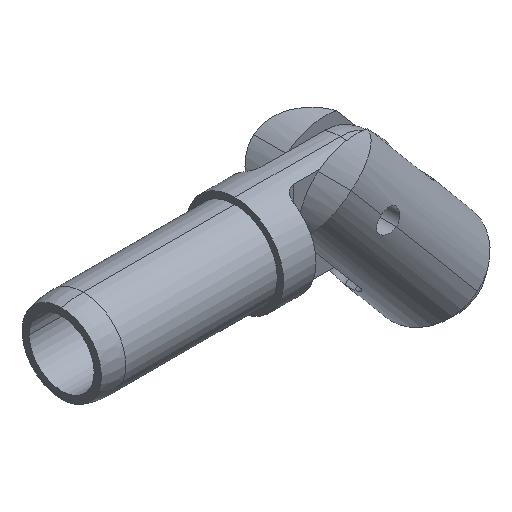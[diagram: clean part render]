
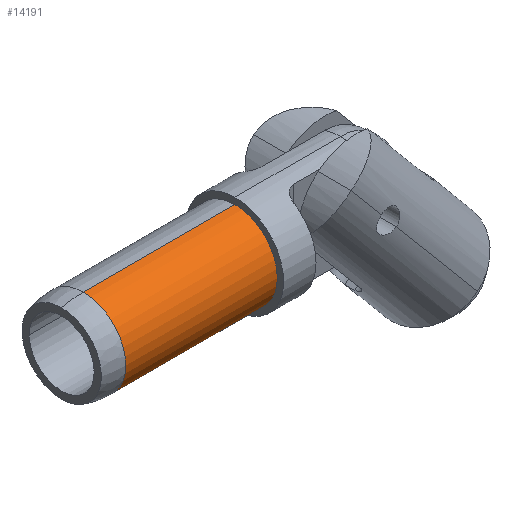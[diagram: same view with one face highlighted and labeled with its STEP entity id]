
A CAD part, isometric view. The second image highlights one B-rep face of the part: STEP entity #14191.
In plain terms, the highlighted cylindrical face has radius 12.446 mm (diameter 24.892 mm), a partial arc.
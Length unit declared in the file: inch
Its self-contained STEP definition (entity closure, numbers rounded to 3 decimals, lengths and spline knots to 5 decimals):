
#1849 = VERTEX_POINT ( 'NONE', #20173 ) ;
#2125 = CARTESIAN_POINT ( 'NONE',  ( -2.25185, 1.41142, -2.67731 ) ) ;
#2501 = EDGE_CURVE ( 'NONE', #19704, #24077, #14977, .T. ) ;
#2918 = EDGE_CURVE ( 'NONE', #17939, #24077, #19057, .T. ) ;
#3638 = VECTOR ( 'NONE', #9970, 39.37008 ) ;
#3754 = ORIENTED_EDGE ( 'NONE', *, *, #18628, .T. ) ;
#4140 = FACE_OUTER_BOUND ( 'NONE', #15403, .T. ) ;
#4182 = AXIS2_PLACEMENT_3D ( 'NONE', #5755, #5666, #5602 ) ;
#4444 = EDGE_CURVE ( 'NONE', #1849, #19704, #17019, .T. ) ;
#5602 = DIRECTION ( 'NONE',  ( 0., 0., 1. ) ) ;
#5656 = DIRECTION ( 'NONE',  ( -1., 0., 0. ) ) ;
#5666 = DIRECTION ( 'NONE',  ( -1., 0., 0. ) ) ;
#5755 = CARTESIAN_POINT ( 'NONE',  ( -2.25185, 1.41142, -2.18731 ) ) ;
#9393 = ORIENTED_EDGE ( 'NONE', *, *, #2501, .F. ) ;
#9470 = DIRECTION ( 'NONE',  ( 0., 0., 1. ) ) ;
#9970 = DIRECTION ( 'NONE',  ( -1., 0., 0. ) ) ;
#12228 = ORIENTED_EDGE ( 'NONE', *, *, #4444, .F. ) ;
#13321 = CARTESIAN_POINT ( 'NONE',  ( -2.25185, 1.41142, -1.69731 ) ) ;
#13413 = DIRECTION ( 'NONE',  ( -1., 0., 0. ) ) ;
#14191 = ADVANCED_FACE ( 'NONE', ( #4140 ), #22430, .T. ) ;
#14977 = CIRCLE ( 'NONE', #4182, 0.49 ) ;
#15275 = CARTESIAN_POINT ( 'NONE',  ( -2.50185, 1.41142, -2.18731 ) ) ;
#15346 = CARTESIAN_POINT ( 'NONE',  ( -0.50185, 1.41142, -1.69731 ) ) ;
#15403 = EDGE_LOOP ( 'NONE', ( #12228, #3754, #22526, #9393 ) ) ;
#16123 = AXIS2_PLACEMENT_3D ( 'NONE', #17747, #5656, #19773 ) ;
#17019 = LINE ( 'NONE', #17820, #21811 ) ;
#17656 = DIRECTION ( 'NONE',  ( -1., 0., 0. ) ) ;
#17747 = CARTESIAN_POINT ( 'NONE',  ( -0.50185, 1.41142, -2.18731 ) ) ;
#17820 = CARTESIAN_POINT ( 'NONE',  ( -2.50185, 1.41142, -2.67731 ) ) ;
#17939 = VERTEX_POINT ( 'NONE', #15346 ) ;
#18628 = EDGE_CURVE ( 'NONE', #1849, #17939, #23557, .T. ) ;
#19057 = LINE ( 'NONE', #21937, #3638 ) ;
#19704 = VERTEX_POINT ( 'NONE', #2125 ) ;
#19773 = DIRECTION ( 'NONE',  ( 0., 0., 1. ) ) ;
#20173 = CARTESIAN_POINT ( 'NONE',  ( -0.50185, 1.41142, -2.67731 ) ) ;
#21811 = VECTOR ( 'NONE', #17656, 39.37008 ) ;
#21937 = CARTESIAN_POINT ( 'NONE',  ( -2.50185, 1.41142, -1.69731 ) ) ;
#22430 = CYLINDRICAL_SURFACE ( 'NONE', #25544, 0.49 ) ;
#22526 = ORIENTED_EDGE ( 'NONE', *, *, #2918, .T. ) ;
#23557 = CIRCLE ( 'NONE', #16123, 0.49 ) ;
#24077 = VERTEX_POINT ( 'NONE', #13321 ) ;
#25544 = AXIS2_PLACEMENT_3D ( 'NONE', #15275, #13413, #9470 ) ;
